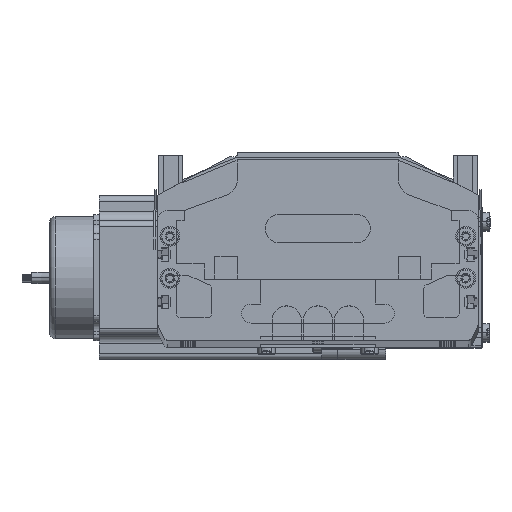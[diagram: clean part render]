
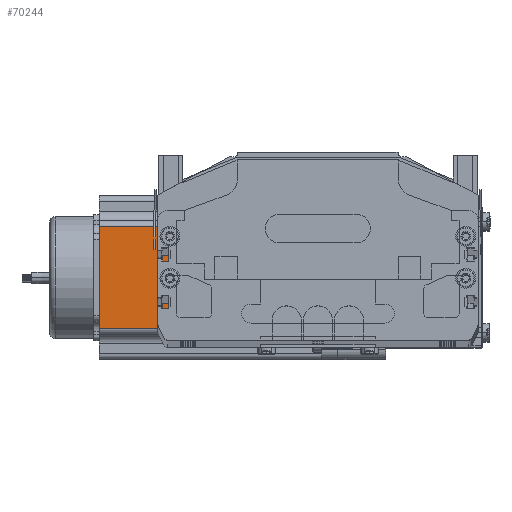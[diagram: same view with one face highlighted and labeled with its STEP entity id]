
A CAD part, top view. The second image highlights one B-rep face of the part: STEP entity #70244.
In plain terms, the highlighted planar face has unit normal (0, 0, 1) as drawn and (0, -1, 0) by its records, which use the part's own axes.
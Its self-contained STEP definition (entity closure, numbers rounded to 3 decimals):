
#21487 = DIRECTION ( 'NONE',  ( 0., 0., -1. ) ) ;
#21488 = VECTOR ( 'NONE', #21487, 1000. ) ;
#21490 = CARTESIAN_POINT ( 'NONE',  ( 16.16, 0., 116.5 ) ) ;
#21491 = LINE ( 'NONE', #21490, #21488 ) ;
#21570 = PLANE ( 'NONE',  #21677 ) ;
#21604 = FACE_OUTER_BOUND ( 'NONE', #70145, .T. ) ;
#21671 = DIRECTION ( 'NONE',  ( 0., 0., 1. ) ) ;
#21673 = DIRECTION ( 'NONE',  ( 0., 1., 0. ) ) ;
#21675 = CARTESIAN_POINT ( 'NONE',  ( 0., 0., 116.5 ) ) ;
#21677 = AXIS2_PLACEMENT_3D ( 'NONE', #21675, #21673, #21671 ) ;
#21724 = CARTESIAN_POINT ( 'NONE',  ( 16.16, 0., 0. ) ) ;
#21728 = DIRECTION ( 'NONE',  ( 0., 0., 1. ) ) ;
#21729 = VECTOR ( 'NONE', #21728, 1000. ) ;
#21731 = CARTESIAN_POINT ( 'NONE',  ( 69.74, 0., 116.5 ) ) ;
#21733 = LINE ( 'NONE', #21731, #21729 ) ;
#21787 = VECTOR ( 'NONE', #22050, 1000. ) ;
#22030 = LINE ( 'NONE', #22052, #21787 ) ;
#22050 = DIRECTION ( 'NONE',  ( 1., 0., 0. ) ) ;
#22052 = CARTESIAN_POINT ( 'NONE',  ( 0., 0., 116.5 ) ) ;
#22845 = CARTESIAN_POINT ( 'NONE',  ( 16.16, 0., 116.5 ) ) ;
#23195 = CARTESIAN_POINT ( 'NONE',  ( 69.74, 0., 116.5 ) ) ;
#24187 = LINE ( 'NONE', #24216, #24215 ) ;
#24200 = CARTESIAN_POINT ( 'NONE',  ( 69.74, 0., 0. ) ) ;
#24214 = DIRECTION ( 'NONE',  ( 1., 0., 0. ) ) ;
#24215 = VECTOR ( 'NONE', #24214, 1000. ) ;
#24216 = CARTESIAN_POINT ( 'NONE',  ( 0., 0., 0. ) ) ;
#70145 = EDGE_LOOP ( 'NONE', ( #70246, #70245, #70195, #70683 ) ) ;
#70195 = ORIENTED_EDGE ( 'NONE', *, *, #70437, .F. ) ;
#70196 = EDGE_CURVE ( 'NONE', #70436, #70269, #21491, .T. ) ;
#70244 = ADVANCED_FACE ( 'NONE', ( #21604 ), #21570, .F. ) ;
#70245 = ORIENTED_EDGE ( 'NONE', *, *, #70262, .T. ) ;
#70246 = ORIENTED_EDGE ( 'NONE', *, *, #70718, .T. ) ;
#70262 = EDGE_CURVE ( 'NONE', #70686, #70440, #21733, .T. ) ;
#70269 = VERTEX_POINT ( 'NONE', #21724 ) ;
#70436 = VERTEX_POINT ( 'NONE', #22845 ) ;
#70437 = EDGE_CURVE ( 'NONE', #70436, #70440, #22030, .T. ) ;
#70440 = VERTEX_POINT ( 'NONE', #23195 ) ;
#70683 = ORIENTED_EDGE ( 'NONE', *, *, #70196, .T. ) ;
#70686 = VERTEX_POINT ( 'NONE', #24200 ) ;
#70718 = EDGE_CURVE ( 'NONE', #70269, #70686, #24187, .T. ) ;
